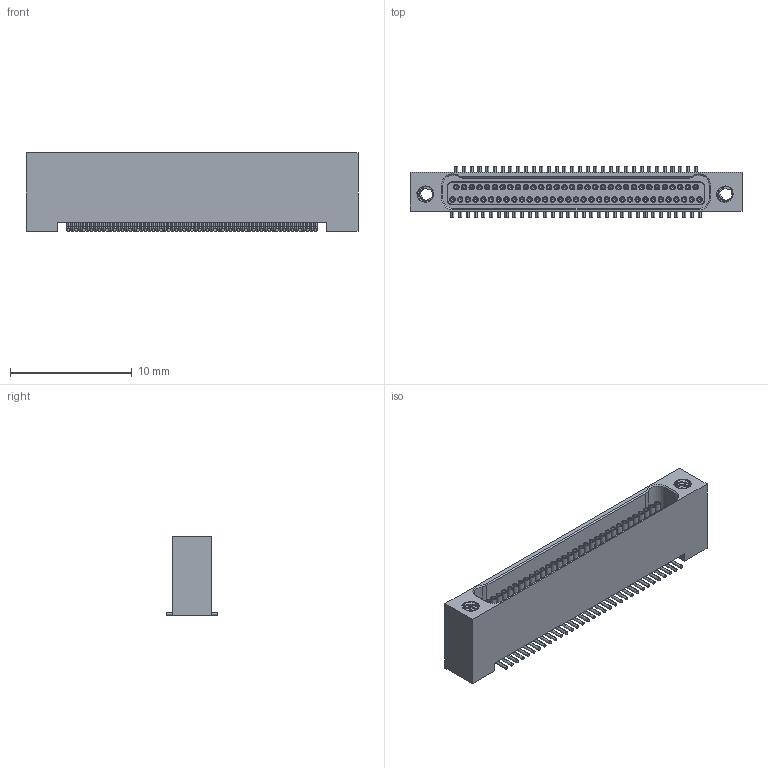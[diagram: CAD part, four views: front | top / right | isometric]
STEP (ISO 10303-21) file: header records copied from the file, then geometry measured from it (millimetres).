
FILE_DESCRIPTION (( 'STEP AP214' ), '1' );
FILE_NAME ('A29200-065 REV H.STEP', '2015-11-04T21:42:20', ( '' ), ( '' ), 'SwSTEP 2.0', 'SolidWorks 2015', '' );
FILE_SCHEMA (( 'AUTOMOTIVE_DESIGN' ));
Length unit declared in the file: inch
Products named in the file (1): A29200-065
Bounding box: 27.3 x 4.19 x 6.48 mm (x, y, z)
Volume: 344.9 mm3; surface area: 1369.2 mm2
Topology: 1 solids, 4 shells, 1242 faces, 2863 edges, 1709 vertices
Faces by surface type: cylinder 626, plane 288, cone 144, torus 130, bspline 54
Entity records: 43993 total; most frequent: CARTESIAN_POINT 15303, DIRECTION 6055, ORIENTED_EDGE 5466, EDGE_CURVE 2733, AXIS2_PLACEMENT_3D 2425, VERTEX_POINT 1709, EDGE_LOOP 1456, ADVANCED_FACE 1242
